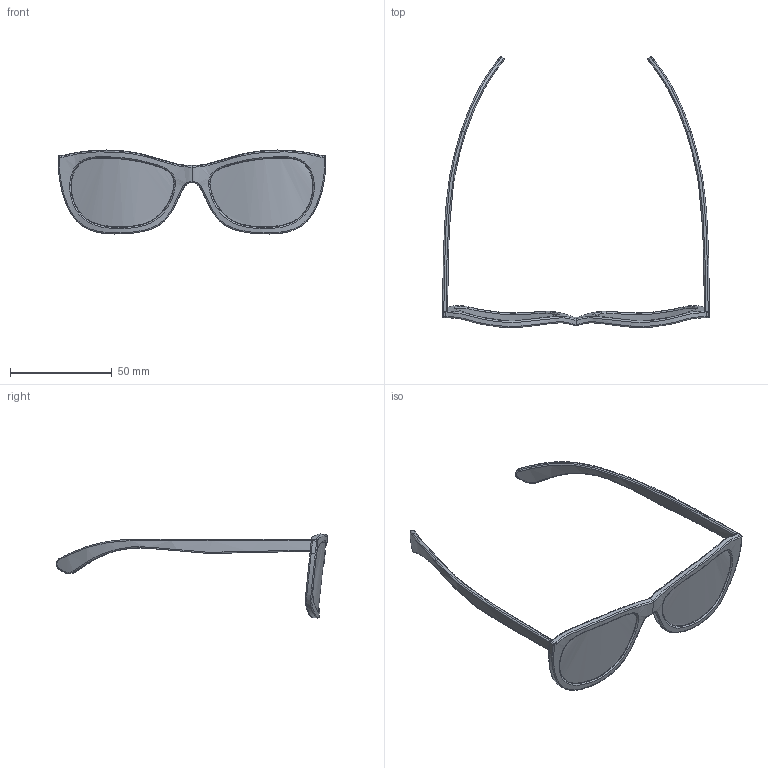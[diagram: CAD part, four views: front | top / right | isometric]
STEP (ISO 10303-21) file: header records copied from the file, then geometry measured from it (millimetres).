
FILE_DESCRIPTION(/* description */ ('STEP AP242','CAx-IF Rec.Pracs.---Representation and Presentation of Product Manufacturing Information (PMI)---4.0---2014-10-13','CAx-IF Rec.Pracs.---3D Tessellated Geometry---0.4---2014-09-14','2;1'),/* implementation_level */ '2;1');
FILE_NAME(/* name */ '682f54695c10d012a54b2425',/* time_stamp */ '2025-05-22T16:44:27Z',/* author */ (''),/* organization */ (''),/* preprocessor_version */ 'ST-DEVELOPER v20',/* originating_system */ 'ONSHAPE BY PTC INC, 1.198',/* authorisation */ ' ');
FILE_SCHEMA (('AP242_MANAGED_MODEL_BASED_3D_ENGINEERING_MIM_LF { 1 0 10303 442 1 1 4 }'));
Length unit declared in the file: metre
Products named in the file (5): Part 4; side; Part 5; Part 3; glass
Bounding box: 131.29 x 133.43 x 41.32 mm (x, y, z)
Volume: 12669 mm3; surface area: 14856.5 mm2
Topology: 5 solids, 5 shells, 118 faces, 260 edges, 146 vertices
Faces by surface type: bspline 100, sphere 8, plane 6, cylinder 4
Entity records: 8816 total; most frequent: CARTESIAN_POINT 6975, ORIENTED_EDGE 480, EDGE_CURVE 240, B_SPLINE_CURVE_WITH_KNOTS 202, VERTEX_POINT 140, EDGE_LOOP 130, FACE_BOUND 130, ADVANCED_FACE 118
